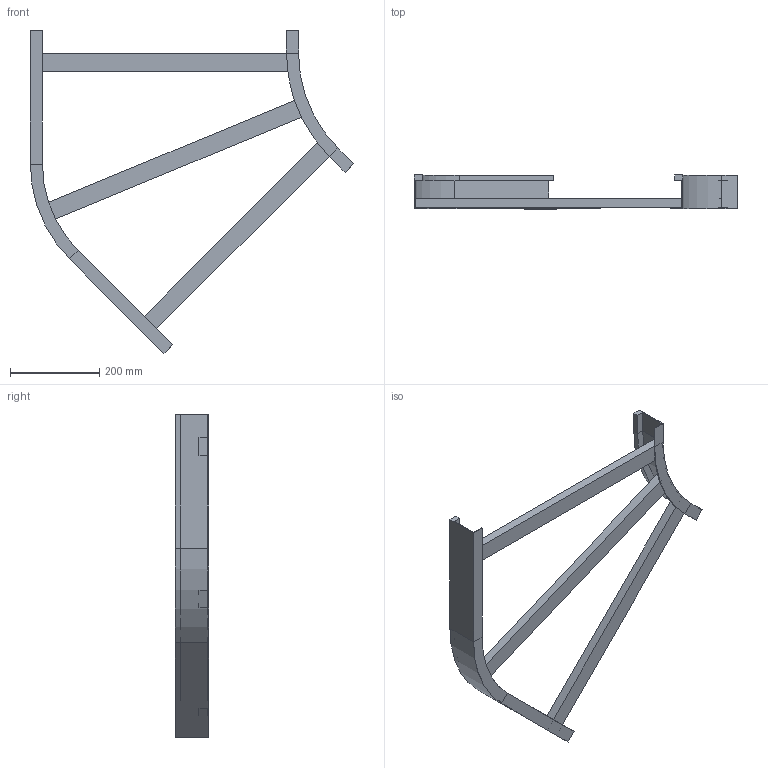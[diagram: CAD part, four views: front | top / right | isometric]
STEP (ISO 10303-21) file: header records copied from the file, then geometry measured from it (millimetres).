
FILE_DESCRIPTION (( 'STEP AP214' ), '1' );
FILE_NAME ('B2_11B3C600.step', '2025-02-21T15:16:44', ( '' ), ( '' ), 'SwSTEP 2.0', 'SolidWorks 2023', '' );
FILE_SCHEMA (( 'AUTOMOTIVE_DESIGN' ));
Length unit declared in the file: millimetre
Products named in the file (5): TRAVERSINO_L644; B2_LONGH.INTERNO 45°_H75_R300; TRAVERSINO_600; B2_LONGH.ESTERNO 45°_H75_R300+600; B2_11B3C600
Assembly tree (5 placements, depth 2):
  B2_11B3C600
    B2_LONGH.INTERNO 45°_H75_R300
    B2_LONGH.ESTERNO 45°_H75_R300+600
    TRAVERSINO_600  x2
    TRAVERSINO_L644
Bounding box: 723.22 x 75 x 721.75 mm (x, y, z)
Volume: 1945131.7 mm3; surface area: 504301.7 mm2
Topology: 5 solids, 5 shells, 70 faces, 148 edges, 88 vertices
Faces by surface type: plane 62, cylinder 8
Entity records: 1822 total; most frequent: DIRECTION 296, CARTESIAN_POINT 288, ORIENTED_EDGE 272, EDGE_CURVE 136, VECTOR 120, LINE 120, AXIS2_PLACEMENT_3D 88, VERTEX_POINT 80
